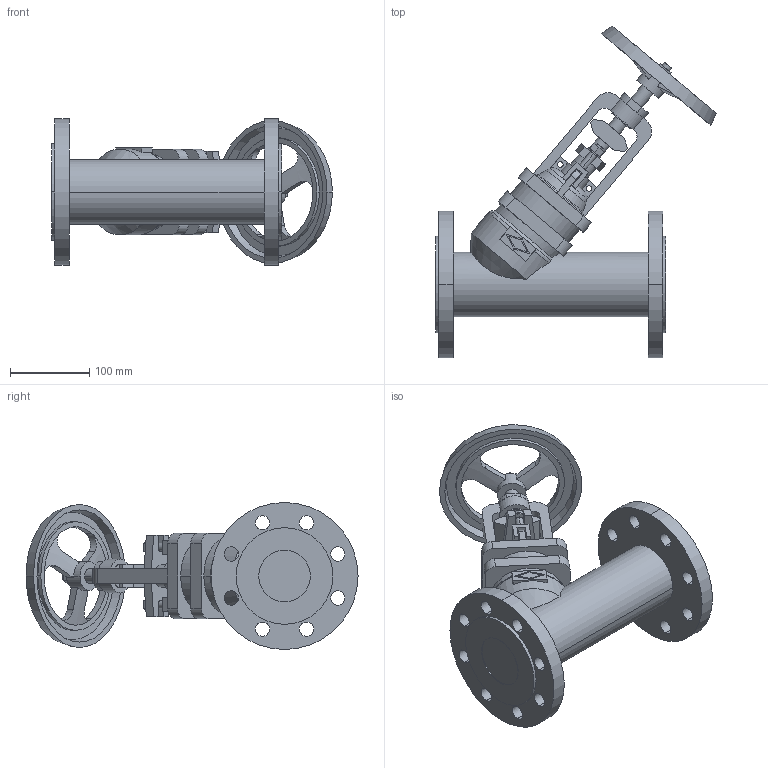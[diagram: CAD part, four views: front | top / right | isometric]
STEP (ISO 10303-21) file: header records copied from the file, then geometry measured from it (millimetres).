
FILE_DESCRIPTION(('OneSpaceDesigner STEP Export'),'2;1');
FILE_NAME('c000004407.stp','2010-05-10T 9:28:21',(''),(''),'OneSpace Designer STEP processor for AP214 (Solid Model)','OneSpace Modeling 15.50B 03-Nov-2007 (C) CoCreate Software GmbH','');
FILE_SCHEMA(('AUTOMOTIVE_DESIGN { 1 0 10303 214 1 1 1 1 }'));
Length unit declared in the file: millimetre
Products named in the file (1): 1
Bounding box: 353.56 x 418.01 x 185 mm (x, y, z)
Volume: 3718525.5 mm3; surface area: 361868.6 mm2
Topology: 1 solids, 1 shells, 313 faces, 845 edges, 556 vertices
Faces by surface type: plane 148, cylinder 121, cone 22, torus 22
Entity records: 12637 total; most frequent: CARTESIAN_POINT 2668, ORIENTED_EDGE 1690, DIRECTION 1339, EDGE_CURVE 845, VERTEX_POINT 556, AXIS2_PLACEMENT_3D 453, VECTOR 433, LINE 433
